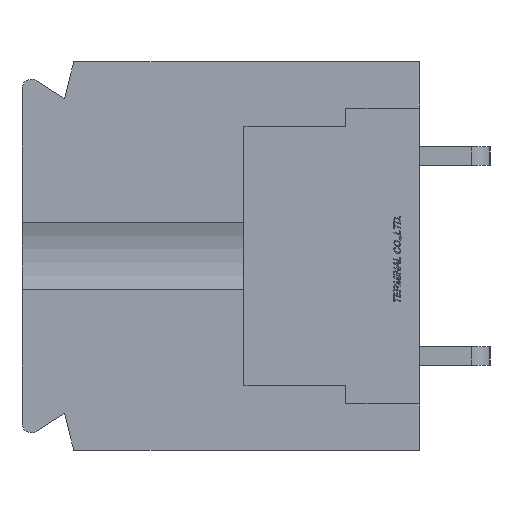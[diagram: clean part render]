
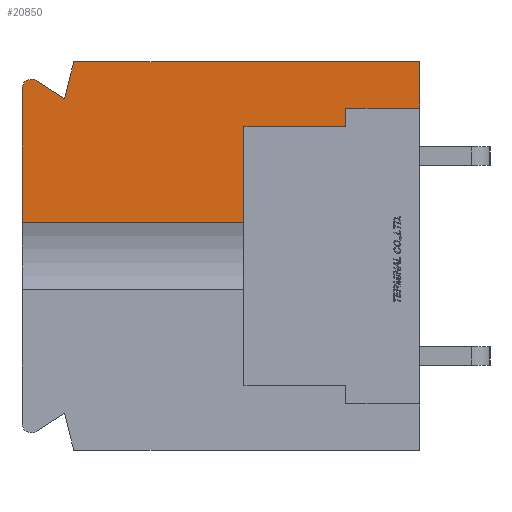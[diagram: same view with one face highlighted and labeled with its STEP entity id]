
A CAD part, left-side view. The second image highlights one B-rep face of the part: STEP entity #20850.
In plain terms, the highlighted planar face has unit normal (-1, 0, 0).
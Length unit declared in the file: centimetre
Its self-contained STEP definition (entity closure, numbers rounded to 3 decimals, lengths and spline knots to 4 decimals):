
#548=CIRCLE('',#35266,0.05);
#1073=VECTOR('',#23156,1.);
#1074=VECTOR('',#23157,1.);
#1075=VECTOR('',#23158,1.);
#1076=VECTOR('',#23159,1.);
#1077=VECTOR('',#23160,1.);
#1078=VECTOR('',#23161,1.);
#1079=VECTOR('',#23162,1.);
#1080=VECTOR('',#23163,1.);
#1081=VECTOR('',#23166,1.);
#1082=VECTOR('',#23167,1.);
#3584=LINE('',#27821,#1073);
#3585=LINE('',#27824,#1074);
#3586=LINE('',#27826,#1075);
#3587=LINE('',#27828,#1076);
#3588=LINE('',#27830,#1077);
#3589=LINE('',#27832,#1078);
#3590=LINE('',#27834,#1079);
#3591=LINE('',#27836,#1080);
#3592=LINE('',#27840,#1081);
#3593=LINE('',#27842,#1082);
#6108=VERTEX_POINT('',#27822);
#6109=VERTEX_POINT('',#27823);
#6110=VERTEX_POINT('',#27825);
#6111=VERTEX_POINT('',#27827);
#6112=VERTEX_POINT('',#27829);
#6113=VERTEX_POINT('',#27831);
#6114=VERTEX_POINT('',#27833);
#6115=VERTEX_POINT('',#27835);
#6116=VERTEX_POINT('',#27837);
#6117=VERTEX_POINT('',#27839);
#6118=VERTEX_POINT('',#27841);
#8439=EDGE_CURVE('',#6108,#6109,#3584,.T.);
#8440=EDGE_CURVE('',#6110,#6108,#3585,.T.);
#8441=EDGE_CURVE('',#6111,#6110,#3586,.T.);
#8442=EDGE_CURVE('',#6112,#6111,#3587,.T.);
#8443=EDGE_CURVE('',#6113,#6112,#3588,.T.);
#8444=EDGE_CURVE('',#6114,#6113,#3589,.T.);
#8445=EDGE_CURVE('',#6115,#6114,#3590,.T.);
#8446=EDGE_CURVE('',#6116,#6115,#3591,.T.);
#8447=EDGE_CURVE('',#6117,#6116,#548,.T.);
#8448=EDGE_CURVE('',#6118,#6117,#3592,.T.);
#8449=EDGE_CURVE('',#6118,#6109,#3593,.T.);
#11807=ORIENTED_EDGE('',*,*,#8439,.F.);
#11808=ORIENTED_EDGE('',*,*,#8440,.F.);
#11809=ORIENTED_EDGE('',*,*,#8441,.F.);
#11810=ORIENTED_EDGE('',*,*,#8442,.F.);
#11811=ORIENTED_EDGE('',*,*,#8443,.F.);
#11812=ORIENTED_EDGE('',*,*,#8444,.F.);
#11813=ORIENTED_EDGE('',*,*,#8445,.F.);
#11814=ORIENTED_EDGE('',*,*,#8446,.F.);
#11815=ORIENTED_EDGE('',*,*,#8447,.F.);
#11816=ORIENTED_EDGE('',*,*,#8448,.F.);
#11817=ORIENTED_EDGE('',*,*,#8449,.T.);
#18160=EDGE_LOOP('',(#11807,#11808,#11809,#11810,#11811,#11812,#11813,#11814,
#11815,#11816,#11817));
#19510=FACE_BOUND('',#18160,.T.);
#20850=ADVANCED_FACE('',(#19510),#22055,.F.);
#22055=PLANE('',#35265);
#23155=DIRECTION('',(1.,0.,0.));
#23156=DIRECTION('',(0.,0.,-1.));
#23157=DIRECTION('',(0.,1.,0.));
#23158=DIRECTION('',(0.,0.,-1.));
#23159=DIRECTION('',(0.,1.,0.));
#23160=DIRECTION('',(0.,0.,-1.));
#23161=DIRECTION('',(0.,-1.,0.));
#23162=DIRECTION('',(0.,-0.243,0.97));
#23163=DIRECTION('',(0.,-0.844,-0.536));
#23164=DIRECTION('',(1.,0.,0.));
#23165=DIRECTION('',(0.,0.,-0.05));
#23166=DIRECTION('',(0.,0.,1.));
#23167=DIRECTION('',(0.,-1.,0.));
#27820=CARTESIAN_POINT('',(-1.1,1.082,0.));
#27821=CARTESIAN_POINT('',(-1.1,0.95,-0.7));
#27822=CARTESIAN_POINT('',(-1.1,0.95,0.7));
#27823=CARTESIAN_POINT('',(-1.1,0.95,0.1809));
#27824=CARTESIAN_POINT('',(-1.1,0.95,0.7));
#27825=CARTESIAN_POINT('',(-1.1,0.4,0.7));
#27826=CARTESIAN_POINT('',(-1.1,0.4,0.7));
#27827=CARTESIAN_POINT('',(-1.1,0.4,0.8));
#27828=CARTESIAN_POINT('',(-1.1,0.4,0.8));
#27829=CARTESIAN_POINT('',(-1.1,0.,0.8));
#27830=CARTESIAN_POINT('',(-1.1,0.,1.05));
#27831=CARTESIAN_POINT('',(-1.1,0.,1.05));
#27832=CARTESIAN_POINT('',(-1.1,1.87,1.05));
#27833=CARTESIAN_POINT('',(-1.1,1.87,1.05));
#27834=CARTESIAN_POINT('',(-1.1,1.92,0.85));
#27835=CARTESIAN_POINT('',(-1.1,1.92,0.85));
#27836=CARTESIAN_POINT('',(-1.1,2.0742,0.9478));
#27837=CARTESIAN_POINT('',(-1.1,2.0742,0.9478));
#27838=CARTESIAN_POINT('',(-1.1,2.1,0.905));
#27839=CARTESIAN_POINT('',(-1.1,2.15,0.905));
#27840=CARTESIAN_POINT('',(-1.1,2.15,-0.905));
#27841=CARTESIAN_POINT('',(-1.1,2.15,0.1809));
#27842=CARTESIAN_POINT('',(-1.1,1.55,0.1809));
#35265=AXIS2_PLACEMENT_3D('',#27820,#23155,$);
#35266=AXIS2_PLACEMENT_3D('',#27838,#23164,#23165);
